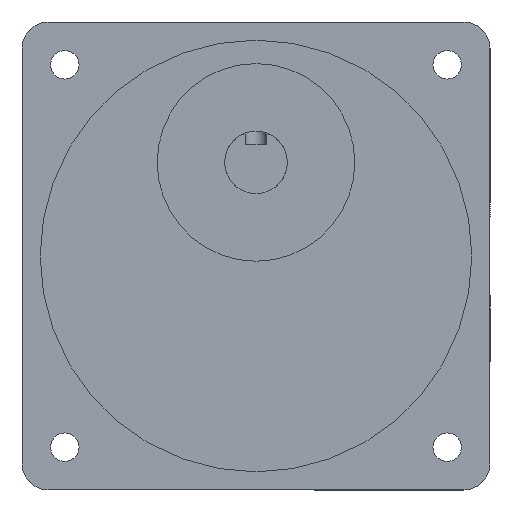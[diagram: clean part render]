
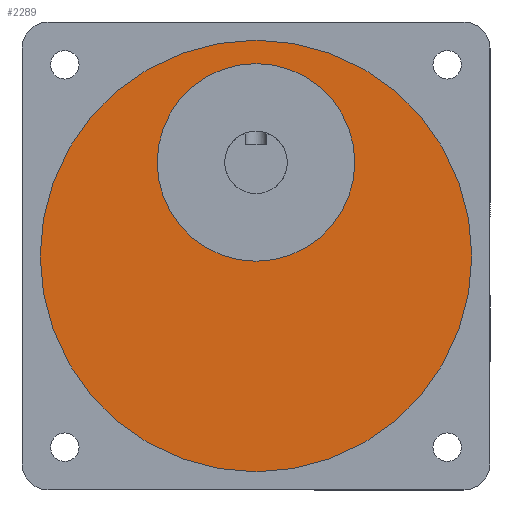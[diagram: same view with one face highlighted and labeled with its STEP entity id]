
A CAD part, front view. The second image highlights one B-rep face of the part: STEP entity #2289.
In plain terms, the highlighted planar face has unit normal (0, -1, 0).
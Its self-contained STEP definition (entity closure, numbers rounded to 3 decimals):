
#31 = AXIS2_PLACEMENT_3D ( 'NONE', #3429, #1214, #3476 ) ;
#131 = DIRECTION ( 'NONE',  ( 0., 0., -1. ) ) ;
#173 = CARTESIAN_POINT ( 'NONE',  ( 45., -58., 45. ) ) ;
#185 = DIRECTION ( 'NONE',  ( 0., -1., 0. ) ) ;
#205 = EDGE_CURVE ( 'NONE', #2184, #4344, #1003, .T. ) ;
#250 = AXIS2_PLACEMENT_3D ( 'NONE', #173, #185, #131 ) ;
#345 = DIRECTION ( 'NONE',  ( 0., -1., 0. ) ) ;
#557 = ORIENTED_EDGE ( 'NONE', *, *, #205, .T. ) ;
#622 = CARTESIAN_POINT ( 'NONE',  ( 45., -58., 63. ) ) ;
#683 = AXIS2_PLACEMENT_3D ( 'NONE', #622, #2841, #4351 ) ;
#692 = CARTESIAN_POINT ( 'NONE',  ( 45., -58., 45. ) ) ;
#762 = FACE_BOUND ( 'NONE', #1317, .T. ) ;
#879 = ORIENTED_EDGE ( 'NONE', *, *, #2609, .F. ) ;
#1003 = CIRCLE ( 'NONE', #31, 41.5 ) ;
#1214 = DIRECTION ( 'NONE',  ( 0., -1., 0. ) ) ;
#1274 = PLANE ( 'NONE',  #250 ) ;
#1311 = EDGE_LOOP ( 'NONE', ( #2545, #557 ) ) ;
#1317 = EDGE_LOOP ( 'NONE', ( #879, #3636 ) ) ;
#1617 = VERTEX_POINT ( 'NONE', #2890 ) ;
#1900 = CIRCLE ( 'NONE', #683, 19. ) ;
#2009 = DIRECTION ( 'NONE',  ( 0., 0., -1. ) ) ;
#2013 = CIRCLE ( 'NONE', #2930, 41.5 ) ;
#2184 = VERTEX_POINT ( 'NONE', #3412 ) ;
#2204 = CIRCLE ( 'NONE', #4419, 19. ) ;
#2289 = ADVANCED_FACE ( 'NONE', ( #762, #3128 ), #1274, .T. ) ;
#2545 = ORIENTED_EDGE ( 'NONE', *, *, #4374, .T. ) ;
#2609 = EDGE_CURVE ( 'NONE', #3163, #1617, #2204, .T. ) ;
#2777 = DIRECTION ( 'NONE',  ( 0., -1., 0. ) ) ;
#2841 = DIRECTION ( 'NONE',  ( 0., -1., 0. ) ) ;
#2890 = CARTESIAN_POINT ( 'NONE',  ( 45., -58., 44. ) ) ;
#2930 = AXIS2_PLACEMENT_3D ( 'NONE', #692, #345, #3325 ) ;
#3128 = FACE_OUTER_BOUND ( 'NONE', #1311, .T. ) ;
#3152 = CARTESIAN_POINT ( 'NONE',  ( 45., -58., 63. ) ) ;
#3163 = VERTEX_POINT ( 'NONE', #3382 ) ;
#3325 = DIRECTION ( 'NONE',  ( 0., 0., -1. ) ) ;
#3382 = CARTESIAN_POINT ( 'NONE',  ( 45., -58., 82. ) ) ;
#3412 = CARTESIAN_POINT ( 'NONE',  ( 45., -58., 86.5 ) ) ;
#3423 = EDGE_CURVE ( 'NONE', #1617, #3163, #1900, .T. ) ;
#3429 = CARTESIAN_POINT ( 'NONE',  ( 45., -58., 45. ) ) ;
#3476 = DIRECTION ( 'NONE',  ( 0., 0., -1. ) ) ;
#3636 = ORIENTED_EDGE ( 'NONE', *, *, #3423, .F. ) ;
#4344 = VERTEX_POINT ( 'NONE', #4477 ) ;
#4351 = DIRECTION ( 'NONE',  ( 0., 0., -1. ) ) ;
#4374 = EDGE_CURVE ( 'NONE', #4344, #2184, #2013, .T. ) ;
#4419 = AXIS2_PLACEMENT_3D ( 'NONE', #3152, #2777, #2009 ) ;
#4477 = CARTESIAN_POINT ( 'NONE',  ( 45., -58., 3.5 ) ) ;
